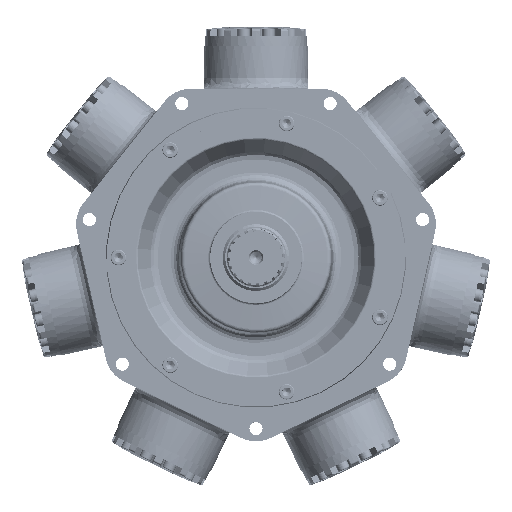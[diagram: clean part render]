
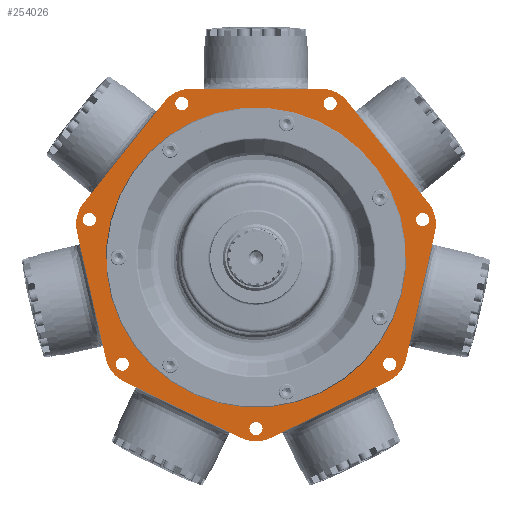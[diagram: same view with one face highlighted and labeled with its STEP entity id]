
A CAD part, top view. The second image highlights one B-rep face of the part: STEP entity #254026.
In plain terms, the highlighted planar face has unit normal (0, 0, 1).
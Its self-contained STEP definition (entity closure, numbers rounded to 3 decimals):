
#176868=CARTESIAN_POINT('',(99.385,257.175,99.962));
#176869=VERTEX_POINT('',#176868);
#176876=CARTESIAN_POINT('',(139.102,238.048,99.962));
#176877=VERTEX_POINT('',#176876);
#176878=CARTESIAN_POINT('',(99.385,206.375,99.962));
#176879=DIRECTION('',(0.0,0.0,-1.));
#176880=DIRECTION('',(0.782,0.623,0.0));
#176881=AXIS2_PLACEMENT_3D('',#176878,#176879,#176880);
#176882=CIRCLE('',#176881,50.8);
#176883=EDGE_CURVE('',#176869,#176877,#176882,.T.);
#176910=CARTESIAN_POINT('',(228.612,-154.12,99.962));
#176911=VERTEX_POINT('',#176910);
#176918=CARTESIAN_POINT('',(201.127,-188.585,99.962));
#176919=VERTEX_POINT('',#176918);
#176920=CARTESIAN_POINT('',(179.086,-142.816,99.962));
#176921=DIRECTION('',(0.0,0.0,-1.));
#176922=DIRECTION('',(0.434,-0.901,0.0));
#176923=AXIS2_PLACEMENT_3D('',#176920,#176921,#176922);
#176924=CIRCLE('',#176923,50.8);
#176925=EDGE_CURVE('',#176911,#176919,#176924,.T.);
#230647=CARTESIAN_POINT('',(22.041,-274.828,99.962));
#230648=VERTEX_POINT('',#230647);
#230649=CARTESIAN_POINT('',(201.127,-188.585,99.962));
#230650=DIRECTION('',(-0.901,-0.434,0.0));
#230651=VECTOR('',#230650,198.77);
#230652=LINE('',#230649,#230651);
#230653=EDGE_CURVE('',#176919,#230648,#230652,.T.);
#230786=CARTESIAN_POINT('',(-139.102,238.048,99.962));
#230787=VERTEX_POINT('',#230786);
#230794=CARTESIAN_POINT('',(-99.385,257.175,99.962));
#230795=VERTEX_POINT('',#230794);
#230796=CARTESIAN_POINT('',(-99.385,206.375,99.962));
#230797=DIRECTION('',(0.0,0.0,-1.0));
#230798=DIRECTION('',(0.0,1.0,0.0));
#230799=AXIS2_PLACEMENT_3D('',#230796,#230797,#230798);
#230800=CIRCLE('',#230799,50.8);
#230801=EDGE_CURVE('',#230787,#230795,#230800,.T.);
#230828=CARTESIAN_POINT('',(-272.842,39.666,99.962));
#230829=VERTEX_POINT('',#230828);
#230836=CARTESIAN_POINT('',(-263.033,82.644,99.962));
#230837=VERTEX_POINT('',#230836);
#230838=CARTESIAN_POINT('',(-223.316,50.97,99.962));
#230839=DIRECTION('',(0.0,0.0,-1.0));
#230840=DIRECTION('',(-0.782,0.623,0.0));
#230841=AXIS2_PLACEMENT_3D('',#230838,#230839,#230840);
#230842=CIRCLE('',#230841,50.8);
#230843=EDGE_CURVE('',#230829,#230837,#230842,.T.);
#230869=CARTESIAN_POINT('',(-22.041,-274.828,99.962));
#230870=VERTEX_POINT('',#230869);
#230871=CARTESIAN_POINT('',(0.,-229.059,99.962));
#230872=DIRECTION('',(0.0,0.0,-1.0));
#230873=DIRECTION('',(-0.434,-0.901,0.0));
#230874=AXIS2_PLACEMENT_3D('',#230871,#230872,#230873);
#230875=CIRCLE('',#230874,50.8);
#230876=EDGE_CURVE('',#230648,#230870,#230875,.T.);
#235436=CARTESIAN_POINT('',(-122.962,234.567,99.962));
#235437=VERTEX_POINT('',#235436);
#235438=CARTESIAN_POINT('',(-112.962,234.567,99.962));
#235439=DIRECTION('',(0.0,0.0,-1.0));
#235440=DIRECTION('',(1.0,0.0,0.0));
#235441=AXIS2_PLACEMENT_3D('',#235438,#235439,#235440);
#235442=CIRCLE('',#235441,10.0);
#235443=EDGE_CURVE('',#235437,#235437,#235442,.T.);
#235586=CARTESIAN_POINT('',(-263.033,82.644,99.962));
#235587=DIRECTION('',(0.623,0.782,0.0));
#235588=VECTOR('',#235587,198.77);
#235589=LINE('',#235586,#235588);
#235590=EDGE_CURVE('',#230837,#230787,#235589,.T.);
#235693=CARTESIAN_POINT('',(-260.057,50.115,99.962));
#235694=VERTEX_POINT('',#235693);
#235695=CARTESIAN_POINT('',(-253.822,57.933,99.962));
#235696=DIRECTION('',(0.0,0.0,-1.0));
#235697=DIRECTION('',(0.623,0.782,0.0));
#235698=AXIS2_PLACEMENT_3D('',#235695,#235696,#235697);
#235699=CIRCLE('',#235698,10.0);
#235700=EDGE_CURVE('',#235694,#235694,#235699,.T.);
#235721=CARTESIAN_POINT('',(106.727,242.386,99.962));
#235722=VERTEX_POINT('',#235721);
#235723=CARTESIAN_POINT('',(112.962,234.567,99.962));
#235724=DIRECTION('',(0.0,0.0,-1.));
#235725=DIRECTION('',(0.623,-0.782,0.0));
#235726=AXIS2_PLACEMENT_3D('',#235723,#235724,#235725);
#235727=CIRCLE('',#235726,10.0);
#235728=EDGE_CURVE('',#235722,#235722,#235727,.T.);
#235749=CARTESIAN_POINT('',(256.048,67.683,99.962));
#235750=VERTEX_POINT('',#235749);
#235751=CARTESIAN_POINT('',(253.822,57.933,99.962));
#235752=DIRECTION('',(0.0,0.0,-1.));
#235753=DIRECTION('',(-0.223,-0.975,0.0));
#235754=AXIS2_PLACEMENT_3D('',#235751,#235752,#235753);
#235755=CIRCLE('',#235754,10.0);
#235756=EDGE_CURVE('',#235750,#235750,#235755,.T.);
#235777=CARTESIAN_POINT('',(212.56,-157.987,99.962));
#235778=VERTEX_POINT('',#235777);
#235779=CARTESIAN_POINT('',(203.55,-162.326,99.962));
#235780=DIRECTION('',(0.0,0.0,-1.));
#235781=DIRECTION('',(-0.901,-0.434,0.0));
#235782=AXIS2_PLACEMENT_3D('',#235779,#235780,#235781);
#235783=CIRCLE('',#235782,10.);
#235784=EDGE_CURVE('',#235778,#235778,#235783,.T.);
#235805=CARTESIAN_POINT('',(9.01,-264.689,99.962));
#235806=VERTEX_POINT('',#235805);
#235807=CARTESIAN_POINT('',(0.,-260.35,99.962));
#235808=DIRECTION('',(0.0,0.0,-1.0));
#235809=DIRECTION('',(-0.901,0.434,0.0));
#235810=AXIS2_PLACEMENT_3D('',#235807,#235808,#235809);
#235811=CIRCLE('',#235810,10.0);
#235812=EDGE_CURVE('',#235806,#235806,#235811,.T.);
#235833=CARTESIAN_POINT('',(-201.325,-172.075,99.962));
#235834=VERTEX_POINT('',#235833);
#235835=CARTESIAN_POINT('',(-203.55,-162.326,99.962));
#235836=DIRECTION('',(0.0,0.0,-1.0));
#235837=DIRECTION('',(-0.223,0.975,0.0));
#235838=AXIS2_PLACEMENT_3D('',#235835,#235836,#235837);
#235839=CIRCLE('',#235838,10.);
#235840=EDGE_CURVE('',#235834,#235834,#235839,.T.);
#236017=CARTESIAN_POINT('',(263.033,82.644,99.962));
#236018=VERTEX_POINT('',#236017);
#236019=CARTESIAN_POINT('',(139.102,238.048,99.962));
#236020=DIRECTION('',(0.623,-0.782,0.0));
#236021=VECTOR('',#236020,198.77);
#236022=LINE('',#236019,#236021);
#236023=EDGE_CURVE('',#176877,#236018,#236022,.T.);
#236061=CARTESIAN_POINT('',(-99.385,257.175,99.962));
#236062=DIRECTION('',(1.0,0.0,0.0));
#236063=VECTOR('',#236062,198.77);
#236064=LINE('',#236061,#236063);
#236065=EDGE_CURVE('',#230795,#176869,#236064,.T.);
#236161=CARTESIAN_POINT('',(272.842,39.666,99.962));
#236162=VERTEX_POINT('',#236161);
#236169=CARTESIAN_POINT('',(272.842,39.666,99.962));
#236170=DIRECTION('',(-0.223,-0.975,0.0));
#236171=VECTOR('',#236170,198.77);
#236172=LINE('',#236169,#236171);
#236173=EDGE_CURVE('',#236162,#176911,#236172,.T.);
#236192=CARTESIAN_POINT('',(223.316,50.97,99.962));
#236193=DIRECTION('',(0.0,0.0,-1.0));
#236194=DIRECTION('',(0.975,-0.223,0.0));
#236195=AXIS2_PLACEMENT_3D('',#236192,#236193,#236194);
#236196=CIRCLE('',#236195,50.8);
#236197=EDGE_CURVE('',#236018,#236162,#236196,.T.);
#236368=CARTESIAN_POINT('',(-201.127,-188.585,99.962));
#236369=VERTEX_POINT('',#236368);
#236370=CARTESIAN_POINT('',(-22.041,-274.828,99.962));
#236371=DIRECTION('',(-0.901,0.434,0.0));
#236372=VECTOR('',#236371,198.77);
#236373=LINE('',#236370,#236372);
#236374=EDGE_CURVE('',#230870,#236369,#236373,.T.);
#236537=CARTESIAN_POINT('',(-228.612,-154.12,99.962));
#236538=VERTEX_POINT('',#236537);
#236539=CARTESIAN_POINT('',(-179.086,-142.816,99.962));
#236540=DIRECTION('',(0.0,0.0,-1.0));
#236541=DIRECTION('',(-0.975,-0.223,0.0));
#236542=AXIS2_PLACEMENT_3D('',#236539,#236540,#236541);
#236543=CIRCLE('',#236542,50.8);
#236544=EDGE_CURVE('',#236369,#236538,#236543,.T.);
#236609=CARTESIAN_POINT('',(-228.612,-154.12,99.962));
#236610=DIRECTION('',(-0.223,0.975,0.0));
#236611=VECTOR('',#236610,198.77);
#236612=LINE('',#236609,#236611);
#236613=EDGE_CURVE('',#236538,#230829,#236612,.T.);
#253973=CARTESIAN_POINT('',(0.0,0.0,99.962));
#253974=DIRECTION('',(0.0,0.0,-1.0));
#253975=DIRECTION('',(-1.0,0.0,0.0));
#253976=AXIS2_PLACEMENT_3D('',#253973,#253974,#253975);
#253977=PLANE('',#253976);
#253978=ORIENTED_EDGE('',*,*,#236065,.F.);
#253979=ORIENTED_EDGE('',*,*,#230801,.F.);
#253980=ORIENTED_EDGE('',*,*,#235590,.F.);
#253981=ORIENTED_EDGE('',*,*,#230843,.F.);
#253982=ORIENTED_EDGE('',*,*,#236613,.F.);
#253983=ORIENTED_EDGE('',*,*,#236544,.F.);
#253984=ORIENTED_EDGE('',*,*,#236374,.F.);
#253985=ORIENTED_EDGE('',*,*,#230876,.F.);
#253986=ORIENTED_EDGE('',*,*,#230653,.F.);
#253987=ORIENTED_EDGE('',*,*,#176925,.F.);
#253988=ORIENTED_EDGE('',*,*,#236173,.F.);
#253989=ORIENTED_EDGE('',*,*,#236197,.F.);
#253990=ORIENTED_EDGE('',*,*,#236023,.F.);
#253991=ORIENTED_EDGE('',*,*,#176883,.F.);
#253992=EDGE_LOOP('',(#253978,#253979,#253980,#253981,#253982,#253983,#253984,#253985,#253986,#253987,#253988,#253989,#253990,#253991));
#253993=FACE_OUTER_BOUND('',#253992,.T.);
#253994=ORIENTED_EDGE('',*,*,#235443,.T.);
#253995=EDGE_LOOP('',(#253994));
#253996=FACE_BOUND('',#253995,.T.);
#253997=ORIENTED_EDGE('',*,*,#235700,.T.);
#253998=EDGE_LOOP('',(#253997));
#253999=FACE_BOUND('',#253998,.T.);
#254000=ORIENTED_EDGE('',*,*,#235728,.T.);
#254001=EDGE_LOOP('',(#254000));
#254002=FACE_BOUND('',#254001,.T.);
#254003=ORIENTED_EDGE('',*,*,#235756,.T.);
#254004=EDGE_LOOP('',(#254003));
#254005=FACE_BOUND('',#254004,.T.);
#254006=ORIENTED_EDGE('',*,*,#235784,.T.);
#254007=EDGE_LOOP('',(#254006));
#254008=FACE_BOUND('',#254007,.T.);
#254009=ORIENTED_EDGE('',*,*,#235812,.T.);
#254010=EDGE_LOOP('',(#254009));
#254011=FACE_BOUND('',#254010,.T.);
#254012=ORIENTED_EDGE('',*,*,#235840,.T.);
#254013=EDGE_LOOP('',(#254012));
#254014=FACE_BOUND('',#254013,.T.);
#254015=CARTESIAN_POINT('',(-99.167,205.921,99.962));
#254016=VERTEX_POINT('',#254015);
#254017=CARTESIAN_POINT('',(0.,0.,99.962));
#254018=DIRECTION('',(0.0,0.0,-1.));
#254019=DIRECTION('',(-0.434,0.901,0.0));
#254020=AXIS2_PLACEMENT_3D('',#254017,#254018,#254019);
#254021=CIRCLE('',#254020,228.556);
#254022=EDGE_CURVE('',#254016,#254016,#254021,.T.);
#254023=ORIENTED_EDGE('',*,*,#254022,.T.);
#254024=EDGE_LOOP('',(#254023));
#254025=FACE_BOUND('',#254024,.T.);
#254026=ADVANCED_FACE('',(#253993,#253996,#253999,#254002,#254005,#254008,#254011,#254014,#254025),#253977,.F.);
